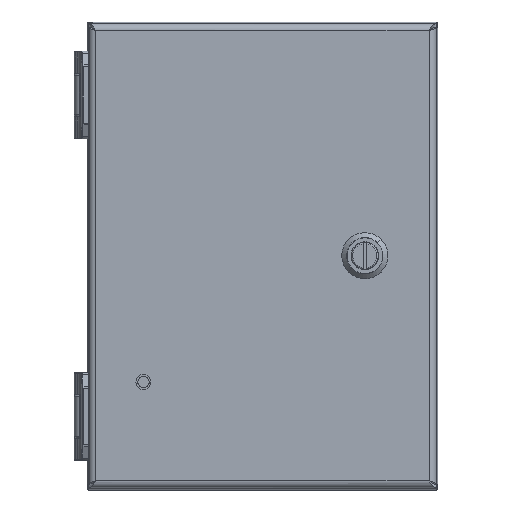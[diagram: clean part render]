
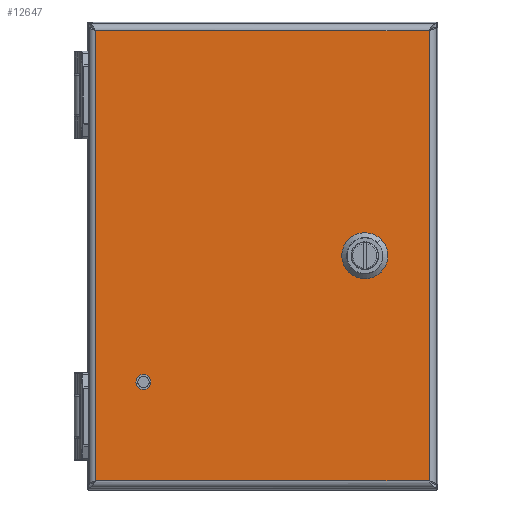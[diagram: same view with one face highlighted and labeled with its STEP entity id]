
A CAD part, top view. The second image highlights one B-rep face of the part: STEP entity #12647.
In plain terms, the highlighted planar face has unit normal (0, 0, 1).
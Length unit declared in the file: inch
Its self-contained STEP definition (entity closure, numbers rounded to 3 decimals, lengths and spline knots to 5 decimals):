
#10622=CARTESIAN_POINT('',(-2.035,-2.16,0.81));
#10623=DIRECTION('',(0.,0.,1.));
#10624=DIRECTION('',(-1.,0.,0.));
#10625=AXIS2_PLACEMENT_3D('',#10622,#10623,#10624);
#10630=CARTESIAN_POINT('',(-2.035,-2.16,0.81));
#10631=DIRECTION('',(0.,0.,1.));
#10632=DIRECTION('',(1.,0.,0.));
#10633=AXIS2_PLACEMENT_3D('',#10630,#10631,#10632);
#10638=DIRECTION('',(0.707,0.707,0.));
#10639=VECTOR('',#10638,0.30984);
#10640=CARTESIAN_POINT('',(1.44447,0.08845,0.81));
#10641=LINE('',#10640,#10639);
#10645=CARTESIAN_POINT('',(1.752,0.,0.81));
#10646=DIRECTION('',(0.,0.,1.));
#10647=DIRECTION('',(-0.961,0.276,0.));
#10648=AXIS2_PLACEMENT_3D('',#10645,#10646,#10647);
#10653=DIRECTION('',(-0.707,0.707,0.));
#10654=VECTOR('',#10653,0.30984);
#10655=CARTESIAN_POINT('',(1.66355,-0.30753,0.81));
#10656=LINE('',#10655,#10654);
#10660=CARTESIAN_POINT('',(1.752,0.,0.81));
#10661=DIRECTION('',(0.,0.,1.));
#10662=DIRECTION('',(-0.276,-0.961,0.));
#10663=AXIS2_PLACEMENT_3D('',#10660,#10661,#10662);
#10668=DIRECTION('',(-0.707,-0.707,0.));
#10669=VECTOR('',#10668,0.30984);
#10670=CARTESIAN_POINT('',(2.05953,-0.08845,0.81));
#10671=LINE('',#10670,#10669);
#10675=CARTESIAN_POINT('',(1.752,0.,0.81));
#10676=DIRECTION('',(0.,0.,1.));
#10677=DIRECTION('',(0.961,-0.276,0.));
#10678=AXIS2_PLACEMENT_3D('',#10675,#10676,#10677);
#10683=DIRECTION('',(0.707,-0.707,0.));
#10684=VECTOR('',#10683,0.30984);
#10685=CARTESIAN_POINT('',(1.84045,0.30753,0.81));
#10686=LINE('',#10685,#10684);
#10690=CARTESIAN_POINT('',(1.752,0.,0.81));
#10691=DIRECTION('',(0.,0.,1.));
#10692=DIRECTION('',(0.276,0.961,0.));
#10693=AXIS2_PLACEMENT_3D('',#10690,#10691,#10692);
#10698=DIRECTION('',(1.,0.,0.));
#10699=VECTOR('',#10698,5.7);
#10700=CARTESIAN_POINT('',(-2.85,-3.85,0.81));
#10701=LINE('',#10700,#10699);
#10796=DIRECTION('',(0.,1.,0.));
#10797=VECTOR('',#10796,7.7);
#10798=CARTESIAN_POINT('',(2.85,-3.85,0.81));
#10799=LINE('',#10798,#10797);
#10848=DIRECTION('',(-1.,0.,0.));
#10849=VECTOR('',#10848,5.7);
#10850=CARTESIAN_POINT('',(2.85,3.85,0.81));
#10851=LINE('',#10850,#10849);
#10953=DIRECTION('',(0.,-1.,0.));
#10954=VECTOR('',#10953,7.7);
#10955=CARTESIAN_POINT('',(-2.85,3.85,0.81));
#10956=LINE('',#10955,#10954);
#12360=CARTESIAN_POINT('',(-2.85,3.85,0.81));
#12361=CARTESIAN_POINT('',(-2.85,-3.85,0.81));
#12362=VERTEX_POINT('',#12360);
#12363=VERTEX_POINT('',#12361);
#12364=CARTESIAN_POINT('',(2.85,-3.85,0.81));
#12365=CARTESIAN_POINT('',(2.85,3.85,0.81));
#12366=VERTEX_POINT('',#12364);
#12367=VERTEX_POINT('',#12365);
#12450=CARTESIAN_POINT('',(-2.13305,-2.16,0.81));
#12451=CARTESIAN_POINT('',(-1.93695,-2.16,0.81));
#12452=VERTEX_POINT('',#12450);
#12453=VERTEX_POINT('',#12451);
#12458=CARTESIAN_POINT('',(1.44447,0.08845,0.81));
#12459=CARTESIAN_POINT('',(1.66355,0.30753,0.81));
#12460=VERTEX_POINT('',#12458);
#12461=VERTEX_POINT('',#12459);
#12462=CARTESIAN_POINT('',(1.84045,0.30753,0.81));
#12463=VERTEX_POINT('',#12462);
#12464=CARTESIAN_POINT('',(2.05953,0.08845,0.81));
#12465=VERTEX_POINT('',#12464);
#12466=CARTESIAN_POINT('',(2.05953,-0.08845,0.81));
#12467=VERTEX_POINT('',#12466);
#12468=CARTESIAN_POINT('',(1.84045,-0.30753,0.81));
#12469=VERTEX_POINT('',#12468);
#12470=CARTESIAN_POINT('',(1.66355,-0.30753,0.81));
#12471=VERTEX_POINT('',#12470);
#12472=CARTESIAN_POINT('',(1.44447,-0.08845,0.81));
#12473=VERTEX_POINT('',#12472);
#12608=CARTESIAN_POINT('',(0.,0.,0.81));
#12609=DIRECTION('',(0.,0.,1.));
#12610=DIRECTION('',(1.,0.,0.));
#12611=AXIS2_PLACEMENT_3D('',#12608,#12609,#12610);
#12612=PLANE('',#12611);
#12614=ORIENTED_EDGE('',*,*,#12613,.F.);
#12616=ORIENTED_EDGE('',*,*,#12615,.F.);
#12618=ORIENTED_EDGE('',*,*,#12617,.F.);
#12620=ORIENTED_EDGE('',*,*,#12619,.F.);
#12621=EDGE_LOOP('',(#12614,#12616,#12618,#12620));
#12622=FACE_OUTER_BOUND('',#12621,.F.);
#12624=ORIENTED_EDGE('',*,*,#12623,.T.);
#12626=ORIENTED_EDGE('',*,*,#12625,.T.);
#12627=EDGE_LOOP('',(#12624,#12626));
#12628=FACE_BOUND('',#12627,.F.);
#12630=ORIENTED_EDGE('',*,*,#12629,.F.);
#12632=ORIENTED_EDGE('',*,*,#12631,.T.);
#12634=ORIENTED_EDGE('',*,*,#12633,.F.);
#12636=ORIENTED_EDGE('',*,*,#12635,.T.);
#12638=ORIENTED_EDGE('',*,*,#12637,.F.);
#12640=ORIENTED_EDGE('',*,*,#12639,.T.);
#12642=ORIENTED_EDGE('',*,*,#12641,.F.);
#12644=ORIENTED_EDGE('',*,*,#12643,.T.);
#12645=EDGE_LOOP('',(#12630,#12632,#12634,#12636,#12638,#12640,#12642,#12644));
#12646=FACE_BOUND('',#12645,.F.);
#10626=CIRCLE('',#10625,0.09805);
#10634=CIRCLE('',#10633,0.09805);
#10649=CIRCLE('',#10648,0.32);
#10664=CIRCLE('',#10663,0.32);
#10679=CIRCLE('',#10678,0.32);
#10694=CIRCLE('',#10693,0.32);
#12613=EDGE_CURVE('',#12363,#12366,#10701,.T.);
#12615=EDGE_CURVE('',#12362,#12363,#10956,.T.);
#12617=EDGE_CURVE('',#12367,#12362,#10851,.T.);
#12619=EDGE_CURVE('',#12366,#12367,#10799,.T.);
#12623=EDGE_CURVE('',#12452,#12453,#10626,.T.);
#12625=EDGE_CURVE('',#12453,#12452,#10634,.T.);
#12629=EDGE_CURVE('',#12460,#12461,#10641,.T.);
#12631=EDGE_CURVE('',#12460,#12473,#10649,.T.);
#12633=EDGE_CURVE('',#12471,#12473,#10656,.T.);
#12635=EDGE_CURVE('',#12471,#12469,#10664,.T.);
#12637=EDGE_CURVE('',#12467,#12469,#10671,.T.);
#12639=EDGE_CURVE('',#12467,#12465,#10679,.T.);
#12641=EDGE_CURVE('',#12463,#12465,#10686,.T.);
#12643=EDGE_CURVE('',#12463,#12461,#10694,.T.);
#12647=ADVANCED_FACE('',(#12622,#12628,#12646),#12612,.T.);
